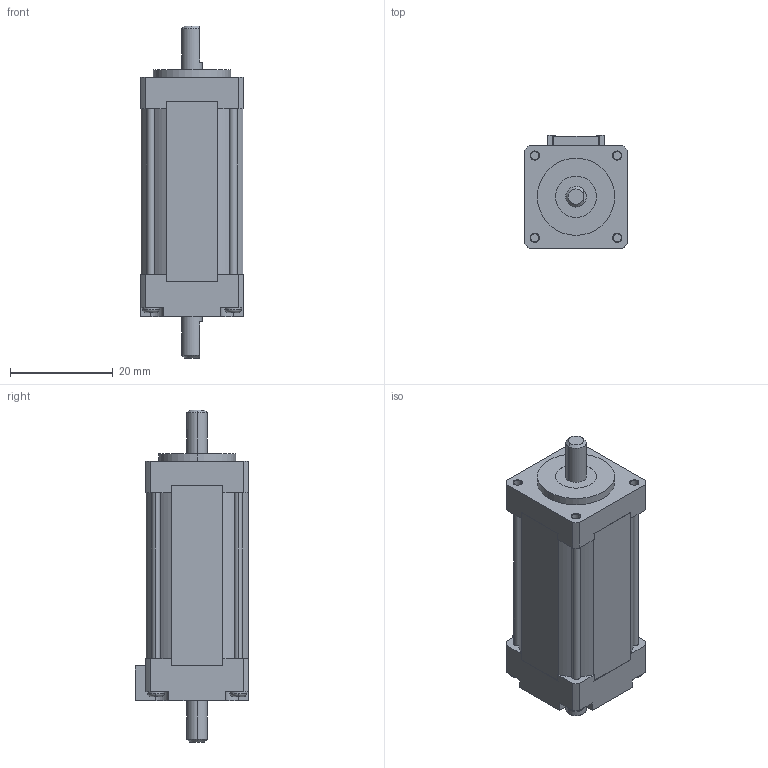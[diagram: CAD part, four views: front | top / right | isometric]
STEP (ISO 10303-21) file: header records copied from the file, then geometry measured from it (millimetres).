
FILE_DESCRIPTION (( 'STEP AP214' ), '1' );
FILE_NAME ('TS3692N12.STEP', '2011-09-15T08:55:08', ( '' ), ( '' ), 'SwSTEP 2.0', 'SolidWorks 2010', '' );
FILE_SCHEMA (( 'AUTOMOTIVE_DESIGN' ));
Length unit declared in the file: millimetre
Products named in the file (1): TS3692N12
Bounding box: 20 x 22 x 64.5 mm (x, y, z)
Volume: 17627.9 mm3; surface area: 5618 mm2
Topology: 1 solids, 1 shells, 233 faces, 646 edges, 422 vertices
Faces by surface type: plane 115, cylinder 96, cone 14, torus 8
Entity records: 8046 total; most frequent: CARTESIAN_POINT 1490, DIRECTION 1332, ORIENTED_EDGE 1292, EDGE_CURVE 646, AXIS2_PLACEMENT_3D 488, VERTEX_POINT 422, LINE 356, VECTOR 356
